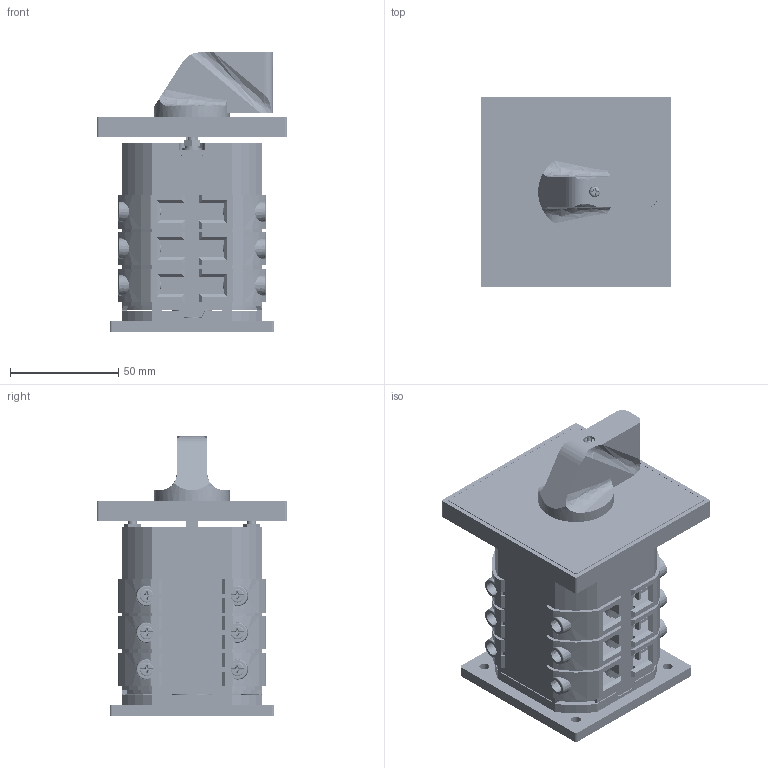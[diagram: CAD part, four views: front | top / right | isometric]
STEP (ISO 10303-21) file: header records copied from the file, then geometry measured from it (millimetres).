
FILE_DESCRIPTION (( 'STEP AP214' ), '1' );
FILE_NAME ('4G40,63,80-XXXX-OU-R212,R214,S24 3ê.STEP', '2023-02-14T12:13:08', ( '' ), ( '' ), 'SwSTEP 2.0', 'SolidWorks 2018', '' );
FILE_SCHEMA (( 'AUTOMOTIVE_DESIGN' ));
Length unit declared in the file: millimetre
Products named in the file (1): 4G40,63,80-XXXX-OU-R212,R214,S24 3ê
Bounding box: 88 x 88 x 129.12 mm (x, y, z)
Volume: 335720 mm3; surface area: 202658.3 mm2
Topology: 82 solids, 82 shells, 5226 faces, 13666 edges, 8686 vertices
Faces by surface type: plane 3008, cylinder 1798, torus 211, cone 158, bspline 51
Entity records: 305732 total; most frequent: CARTESIAN_POINT 119934, ORIENTED_EDGE 27326, DIRECTION 25865, EDGE_CURVE 13663, VERTEX_POINT 8686, AXIS2_PLACEMENT_3D 8642, VECTOR 8581, LINE 8581
